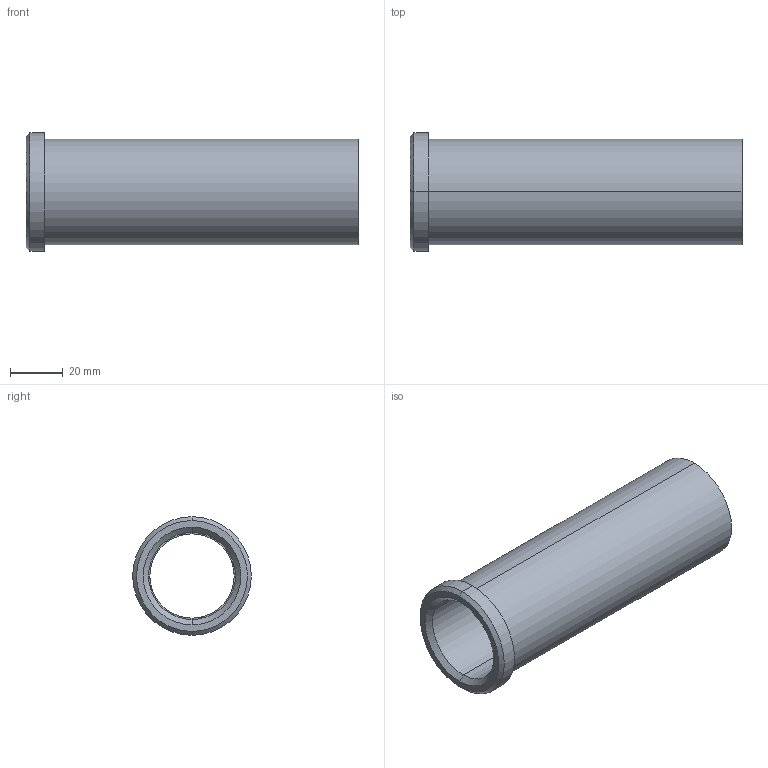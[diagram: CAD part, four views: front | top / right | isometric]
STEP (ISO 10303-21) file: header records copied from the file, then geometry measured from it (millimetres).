
FILE_DESCRIPTION(('CATIA V5 STEP Exchange'),'2;1');
FILE_NAME('C:\Users\Utente\Desktop\IO LAVORO\3D X SITO CF\X SITO\PLASTICA\353\353-32X126.stp','2021-05-12T18:50:30+00:00',('none'),('none'),'CATIA Version 5 Release 20 GA (IN-10)','CATIA V5 STEP AP203','none');
FILE_SCHEMA(('CONFIG_CONTROL_DESIGN'));
Length unit declared in the file: millimetre
Products named in the file (1): 353-32X126
Bounding box: 126 x 45 x 45 mm (x, y, z)
Volume: 55712.5 mm3; surface area: 30049.7 mm2
Topology: 1 solids, 1 shells, 18 faces, 58 edges, 44 vertices
Faces by surface type: cylinder 8, plane 4, cone 4, torus 2
Entity records: 840 total; most frequent: CARTESIAN_POINT 289, ORIENTED_EDGE 116, DIRECTION 82, EDGE_CURVE 58, AXIS2_PLACEMENT_3D 53, VERTEX_POINT 44, CIRCLE 34, EDGE_LOOP 22
